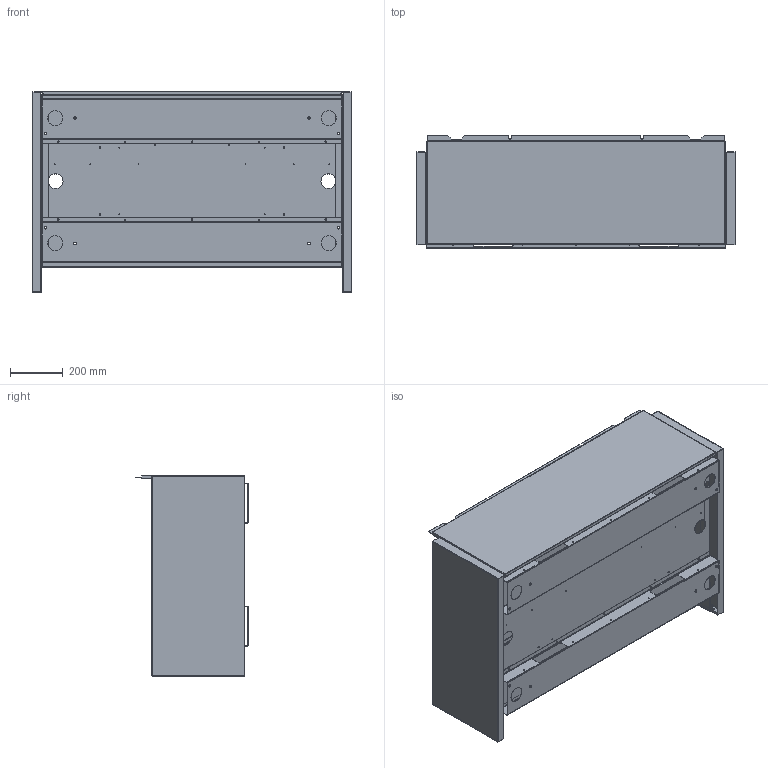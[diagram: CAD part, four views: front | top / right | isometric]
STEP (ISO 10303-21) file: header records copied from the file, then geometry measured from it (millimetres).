
FILE_DESCRIPTION (( 'STEP AP214' ), '1' );
FILE_NAME ('IRP-14_RISERBASE.STEP', '2020-04-15T13:26:14', ( '' ), ( '' ), 'SwSTEP 2.0', 'SolidWorks 2020', '' );
FILE_SCHEMA (( 'AUTOMOTIVE_DESIGN' ));
Length unit declared in the file: inch
Products named in the file (10): 100-1027; 140-376; 126-548; 114-322; IRP-14_RISERBASE; 106-336; 100-1025; 100-1026; 112-505; 112-708_DefaultSM-FLAT-PATTERN
Assembly tree (12 placements, depth 2):
  IRP-14_RISERBASE
    126-548
    100-1027  x2
    106-336
    114-322
    140-376  x2
    100-1026
    100-1025
    112-505  x2
    112-708_DefaultSM-FLAT-PATTERN
Bounding box: 1212.15 x 426.39 x 765.38 mm (x, y, z)
Volume: 6701327 mm3; surface area: 9556040 mm2
Topology: 12 solids, 12 shells, 1318 faces, 3304 edges, 2018 vertices
Faces by surface type: cylinder 674, plane 568, bspline 44, torus 32
Entity records: 32136 total; most frequent: CARTESIAN_POINT 6877, DIRECTION 5226, ORIENTED_EDGE 4876, EDGE_CURVE 2438, AXIS2_PLACEMENT_3D 1939, VERTEX_POINT 1486, EDGE_LOOP 1368, LINE 1348
